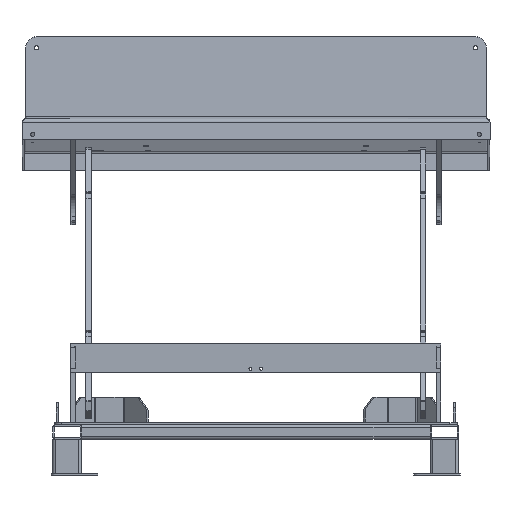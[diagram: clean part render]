
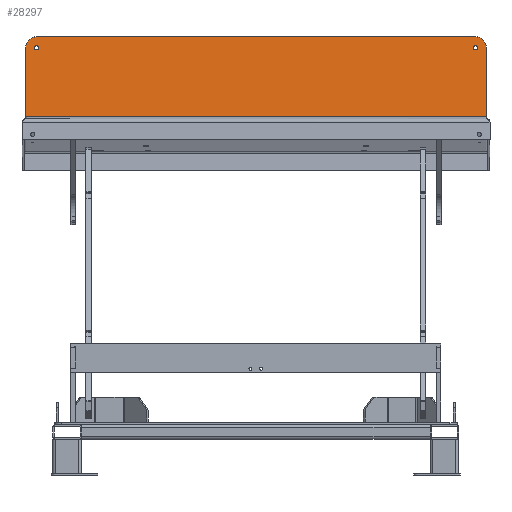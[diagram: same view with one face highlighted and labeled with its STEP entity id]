
A CAD part, left-side view. The second image highlights one B-rep face of the part: STEP entity #28297.
In plain terms, the highlighted planar face has unit normal (-0.996, 0, 0.087).
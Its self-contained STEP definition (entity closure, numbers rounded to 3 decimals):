
#417=FACE_BOUND('',#4135,.T.);
#418=FACE_BOUND('',#4136,.T.);
#947=PLANE('',#31582);
#2373=FACE_OUTER_BOUND('',#4134,.T.);
#4134=EDGE_LOOP('',(#25425,#25426,#25427,#25428,#25429,#25430));
#4135=EDGE_LOOP('',(#25431));
#4136=EDGE_LOOP('',(#25432));
#6398=LINE('',#48934,#8702);
#6404=LINE('',#48950,#8708);
#6409=LINE('',#48967,#8713);
#6410=LINE('',#48969,#8714);
#8702=VECTOR('',#40096,10.);
#8708=VECTOR('',#40112,10.);
#8713=VECTOR('',#40137,10.);
#8714=VECTOR('',#40140,10.);
#10587=CIRCLE('',#31530,6.);
#10589=CIRCLE('',#31533,6.);
#10607=CIRCLE('',#31563,30.);
#10610=CIRCLE('',#31569,30.);
#13289=VERTEX_POINT('',#48850);
#13291=VERTEX_POINT('',#48855);
#13316=VERTEX_POINT('',#48921);
#13317=VERTEX_POINT('',#48922);
#13321=VERTEX_POINT('',#48932);
#13325=VERTEX_POINT('',#48944);
#13326=VERTEX_POINT('',#48948);
#13328=VERTEX_POINT('',#48962);
#17343=EDGE_CURVE('',#13289,#13289,#10587,.T.);
#17345=EDGE_CURVE('',#13291,#13291,#10589,.T.);
#17374=EDGE_CURVE('',#13316,#13317,#10607,.T.);
#17380=EDGE_CURVE('',#13321,#13316,#6398,.T.);
#17385=EDGE_CURVE('',#13325,#13321,#10610,.T.);
#17388=EDGE_CURVE('',#13326,#13325,#6404,.T.);
#17397=EDGE_CURVE('',#13326,#13328,#6409,.T.);
#17398=EDGE_CURVE('',#13317,#13328,#6410,.T.);
#25425=ORIENTED_EDGE('',*,*,#17374,.F.);
#25426=ORIENTED_EDGE('',*,*,#17380,.F.);
#25427=ORIENTED_EDGE('',*,*,#17385,.F.);
#25428=ORIENTED_EDGE('',*,*,#17388,.F.);
#25429=ORIENTED_EDGE('',*,*,#17397,.T.);
#25430=ORIENTED_EDGE('',*,*,#17398,.F.);
#25431=ORIENTED_EDGE('',*,*,#17343,.T.);
#25432=ORIENTED_EDGE('',*,*,#17345,.T.);
#28297=ADVANCED_FACE('',(#2373,#417,#418),#947,.T.);
#31530=AXIS2_PLACEMENT_3D('',#48851,#40009,#40010);
#31533=AXIS2_PLACEMENT_3D('',#48856,#40015,#40016);
#31563=AXIS2_PLACEMENT_3D('',#48923,#40086,#40087);
#31569=AXIS2_PLACEMENT_3D('',#48945,#40106,#40107);
#31582=AXIS2_PLACEMENT_3D('',#48970,#40141,#40142);
#40009=DIRECTION('center_axis',(0.996,0.,
-0.087));
#40010=DIRECTION('ref_axis',(0.,-1.,0.));
#40015=DIRECTION('center_axis',(0.996,0.,
-0.087));
#40016=DIRECTION('ref_axis',(0.,-1.,0.));
#40086=DIRECTION('center_axis',(0.996,0.,
-0.087));
#40087=DIRECTION('ref_axis',(0.062,-0.707,0.704));
#40096=DIRECTION('',(0.,-1.,0.));
#40106=DIRECTION('center_axis',(0.996,0.,
-0.087));
#40107=DIRECTION('ref_axis',(0.062,0.707,0.704));
#40112=DIRECTION('',(0.087,0.,0.996));
#40137=DIRECTION('',(0.,-1.,0.));
#40140=DIRECTION('',(-0.087,0.,-0.996));
#40141=DIRECTION('center_axis',(-0.996,0.,
0.087));
#40142=DIRECTION('ref_axis',(0.,-1.,0.));
#48850=CARTESIAN_POINT('',(-680.406,-616.45,1047.764));
#48851=CARTESIAN_POINT('Origin',(-680.406,-610.45,1047.764));
#48855=CARTESIAN_POINT('',(-680.406,603.55,1047.764));
#48856=CARTESIAN_POINT('Origin',(-680.406,609.55,1047.764));
#48921=CARTESIAN_POINT('',(-677.792,-610.45,1077.65));
#48922=CARTESIAN_POINT('',(-680.406,-640.45,1047.764));
#48923=CARTESIAN_POINT('Origin',(-680.406,-610.45,1047.764));
#48932=CARTESIAN_POINT('',(-677.792,609.55,1077.65));
#48934=CARTESIAN_POINT('',(-677.792,-640.45,1077.65));
#48944=CARTESIAN_POINT('',(-680.406,639.55,1047.764));
#48945=CARTESIAN_POINT('Origin',(-680.406,609.55,1047.764));
#48948=CARTESIAN_POINT('',(-697.14,639.55,856.495));
#48950=CARTESIAN_POINT('',(-677.792,639.55,1077.65));
#48962=CARTESIAN_POINT('',(-697.14,-640.45,856.495));
#48967=CARTESIAN_POINT('',(-697.14,-320.45,856.495));
#48969=CARTESIAN_POINT('',(-697.837,-640.45,848.525));
#48970=CARTESIAN_POINT('Origin',(-687.815,-0.45,963.088));
